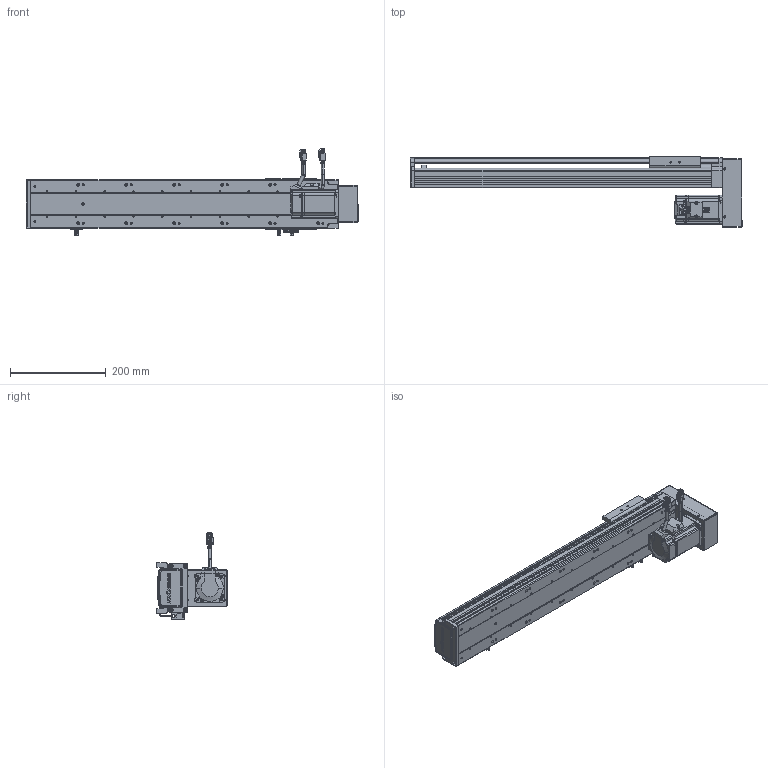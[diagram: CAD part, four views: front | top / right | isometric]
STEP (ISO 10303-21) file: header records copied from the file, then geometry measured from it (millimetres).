
FILE_DESCRIPTION (( 'STEP AP203' ), '1' );
FILE_NAME ('RY100S-L1620-300-BK(15双轨).SLDASM_450.step', '2021-02-20T08:23:06', ( '盈信电脑' ), ( '东莞市道滘镇水果街19号' ), 'SwSTEP 2.0', 'SolidWorks 2012', '' );
FILE_SCHEMA (( 'CONFIG_CONTROL_DESIGN' ));
Products named in the file (26): RY100S-L1620-300-BK(15邧寢).SLDASM_450; RY100S下折电机安装板（15双轨）; 侂狟200W萇儂; RY100S-狟殏萇儂郪; 肮祭湍5M遵15笚酗260; 5; 6; 7; 4; 2; 1; 3; RY100S狟殏萇儂欶(15邧寢); RY80肮祭湍覃踡啣; 3M30喘15遵; RY80肮祭湍芢雄輸; RY100綴裔啣; RY100S-絳寢EGH15-350-LK(腴郪15邧寢)_450; 滅袉蝶18-24; RY100S转折电机端支撑座(15双轨); 滅袉蝶18-10; 覜茼ん672; RY100俋离覜茼え; RY100S铝滑块（15双轨单滑块）底组装导轨; RY100S-300-LK转折型材上盖(15双轨)_450; RY100S-350-LK型材底座(低组15双轨)_450
Assembly tree (28 placements, depth 4):
  RY100S-L1620-300-BK(15邧寢).SLDASM_450
    RY100S-350-LK型材底座(低组15双轨)_450
    RY100S-300-LK转折型材上盖(15双轨)_450
    RY100S铝滑块（15双轨单滑块）底组装导轨
    覜茼ん672  x3
    滅袉蝶18-10
    RY100俋离覜茼え
    RY100S转折电机端支撑座(15双轨)
    滅袉蝶18-24
    RY100綴裔啣
    RY100S-絳寢EGH15-350-LK(腴郪15邧寢)_450
    RY100S-狟殏萇儂郪
      RY80肮祭湍芢雄輸  x2
      RY100S狟殏萇儂欶(15邧寢)
      3M30喘15遵
      RY80肮祭湍覃踡啣
      侂狟200W萇儂
        1
        2
        3
        4
        5
        6
        7
      肮祭湍5M遵15笚酗260
      RY100S下折电机安装板（15双轨）
Bounding box: 692 x 147 x 179.5 mm (x, y, z)
Volume: 1917505.7 mm3; surface area: 733218.3 mm2
Topology: 26 solids, 26 shells, 3246 faces, 8721 edges, 5622 vertices
Faces by surface type: plane 1712, cylinder 1251, cone 169, bspline 114
Entity records: 105358 total; most frequent: CARTESIAN_POINT 25975, ORIENTED_EDGE 16146, DIRECTION 15720, EDGE_CURVE 8073, AXIS2_PLACEMENT_3D 5368, VERTEX_POINT 5258, VECTOR 4984, LINE 4984
